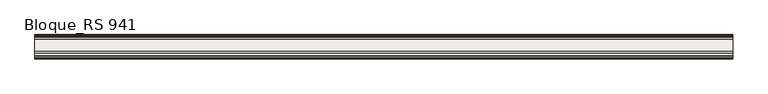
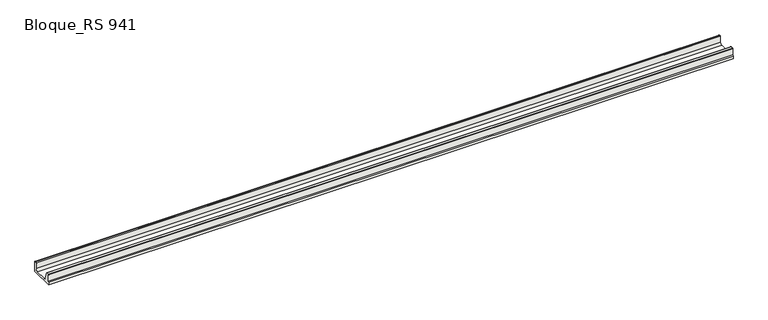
"""IFC4 building model written with IfcOpenShell, lengths in millimetres: slab geometry, ROSA GRES_RS 941 : Bloque_RS 941."""

from ifc_helpers import new_model, si_unit, point, frame, frame_2d, origin, place, context, project, spatial, polyline, circle_curve, trimmed, segment, composite_curve, outline, extrude, source, transform, mapped, element, save


def bloque_rs_941_c3a42344(model_context):
    return source(origin(), model_context, "Body", "SweptSolid", [
        extrude(outline(composite_curve([segment(trimmed(circle_curve(frame_2d((290.0102563, 121.0098178)), 4.9901918), [point((290.0004385, 126.0))], [point((295.0004385, 121.0))], False, "CARTESIAN"), True, "CONTINUOUS"), segment(polyline([(295.0004385, 121.0), (295.0004385, 0.0), (15.0, 0.0), (15.0, 32.0012714), (22.0000003, 44.0), (22.0000003, 121.0)]), True, "CONTINUOUS"), segment(trimmed(circle_curve(frame_2d((27.0000003, 121.0)), 5.0), [point((22.0000003, 121.0))], [point((27.0000003, 126.0))], False, "CARTESIAN"), True, "CONTINUOUS"), segment(polyline([(27.0000003, 126.0), (53.3276984, 126.0)]), True, "CONTINUOUS"), segment(trimmed(circle_curve(frame_2d((53.3404956, 121.0174239)), 4.9825925), [point((53.3276984, 126.0))], [point((58.098681, 122.4959025))], False, "CARTESIAN"), True, "CONTINUOUS"), segment(polyline([(58.098681, 122.4959025), (83.1743169, 42.5204875)]), True, "CONTINUOUS"), segment(trimmed(circle_curve(frame_2d((106.8431931, 49.7467022)), 24.7474015), [point((83.1743169, 42.5204875))], [point((107.0292302, 25.0))], True, "CARTESIAN"), True, "CONTINUOUS"), segment(polyline([(107.0292302, 25.0), (245.9504385, 25.0)]), True, "CONTINUOUS"), segment(trimmed(circle_curve(frame_2d((246.0603718, 49.9398968)), 24.9401391), [point((245.9504385, 25.0))], [point((271.0004385, 50.0))], True, "CARTESIAN"), True, "CONTINUOUS"), segment(polyline([(271.0004385, 50.0), (271.0004385, 121.221769)]), True, "CONTINUOUS"), segment(trimmed(circle_curve(frame_2d((275.9926846, 121.0029619)), 4.9970389), [point((271.0004385, 121.221769))], [point((275.9955179, 126.0))], False, "CARTESIAN"), True, "CONTINUOUS"), segment(polyline([(275.9955179, 126.0), (290.0004385, 126.0)]), True, "CONTINUOUS")], self_intersect=False)), frame((0.0, 0.0, 0.0), z_axis=(1.0, 0.0, 0.0), x_axis=(0.0, 1.0, 0.0)), (0.0, 0.0, 1.0), 8000.0),
    ])


if __name__ == "__main__":
    model = new_model("IFC4")
    model_context = context("Model", 3, world=origin())
    ifc_project = project(units=[si_unit("LENGTHUNIT", "METRE", prefix="MILLI")], contexts=[model_context])
    site = spatial("IfcSite", under=ifc_project)
    building = spatial("IfcBuilding", under=site)
    placement = place(None, origin())
    bloque_rs_941_shape = bloque_rs_941_c3a42344(model_context)
    element("IfcSlab", 1, ObjectType="ROSA GRES_RS 941 : Bloque_RS 941", at=placement, inside=building, context=model_context, shape_type="MappedRepresentation", body=[
        mapped(bloque_rs_941_shape, transform((0.0, 0.0, 0.0), x_axis=(1.0, 0.0, 0.0), y_axis=(0.0, 1.0, 0.0), z_axis=(0.0, 0.0, 1.0))),
    ])
    save(model, "model.ifc")
